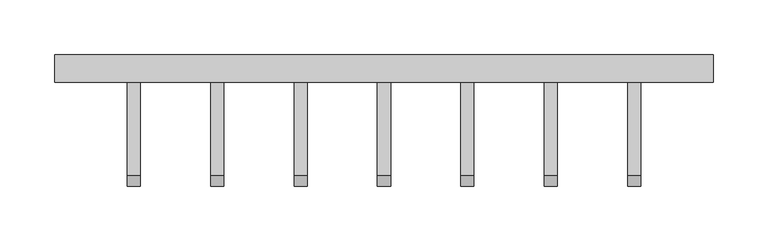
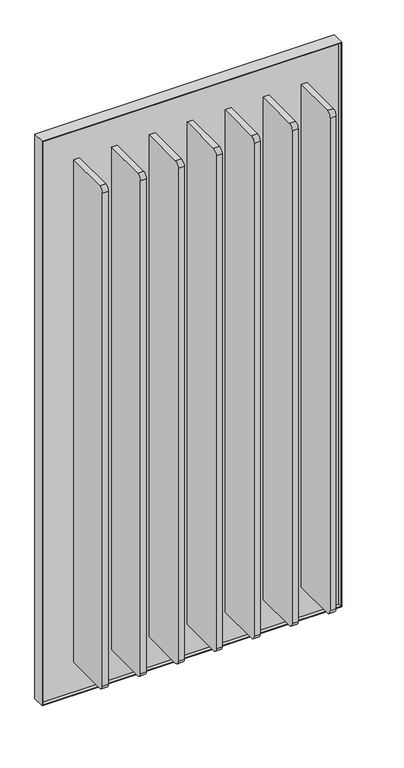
"""IFC4 building model written with IfcOpenShell, lengths in millimetres: proxy geometry, Frame_Cascade 8.3dm."""

from ifc_helpers import new_model, si_unit, point, frame, frame_2d, origin, place, context, project, spatial, polyline, circle_curve, trimmed, segment, composite_curve, outline, extrude, source, transform, mapped, element, save


def generic_models_322be5bc(model_context):
    return source(origin(), model_context, "Body", "SweptSolid", [
        extrude(outline(polyline([(2904.6286407, 2332.5516321), (2904.6286407, 2936.5516321), (4108.6286407, 2936.5516321), (4108.6286407, 2332.5516321), (2904.6286407, 2332.5516321)]), holes=[polyline([(2906.6286407, 2334.5516321), (4106.6286407, 2334.5516321), (4106.6286407, 2934.5516321), (2906.6286407, 2934.5516321), (2906.6286407, 2334.5516321)])]), frame((0.0, 107.5568681, 0.0), z_axis=(0.0, 1.0, 0.0), x_axis=(0.0, 0.0, 1.0)), (0.0, 0.0, 1.0), 25.4),
        extrude(outline(polyline([(2934.5516321, 114.2568681), (2334.5516321, 114.2568681), (2334.5516321, 126.2568681), (2934.5516321, 126.2568681), (2934.5516321, 114.2568681)])), frame((0.0, 0.0, 2906.6286407), z_axis=(0.0, 0.0, 1.0), x_axis=(1.0, 0.0, 0.0)), (0.0, 0.0, 1.0), 1200.0),
        extrude(outline(composite_curve([segment(trimmed(circle_curve(frame_2d((22.2568681, 2981.1286407)), 10.0), [point((22.2568681, 2971.1286407))], [point((12.2568681, 2981.1286407))], False, "CARTESIAN"), True, "CONTINUOUS"), segment(polyline([(12.2568681, 2981.1286407), (12.2568681, 4032.1286407)]), True, "CONTINUOUS"), segment(trimmed(circle_curve(frame_2d((22.2568681, 4032.1286407)), 10.0), [point((12.2568681, 4032.1286407))], [point((22.2568681, 4042.1286407))], False, "CARTESIAN"), True, "CONTINUOUS"), segment(polyline([(22.2568681, 4042.1286407), (114.2568681, 4042.1286407), (114.2568681, 2971.1286407), (22.2568681, 2971.1286407)]), True, "CONTINUOUS")], self_intersect=False)), frame((2552.0516321, 0.0, 0.0), z_axis=(1.0, 0.0, 0.0), x_axis=(0.0, 1.0, 0.0)), (0.0, 0.0, 1.0), 12.0),
        extrude(outline(composite_curve([segment(trimmed(circle_curve(frame_2d((22.2568681, 2981.1286407)), 10.0), [point((22.2568681, 2971.1286407))], [point((12.2568681, 2981.1286407))], False, "CARTESIAN"), True, "CONTINUOUS"), segment(polyline([(12.2568681, 2981.1286407), (12.2568681, 4032.1286407)]), True, "CONTINUOUS"), segment(trimmed(circle_curve(frame_2d((22.2568681, 4032.1286407)), 10.0), [point((12.2568681, 4032.1286407))], [point((22.2568681, 4042.1286407))], False, "CARTESIAN"), True, "CONTINUOUS"), segment(polyline([(22.2568681, 4042.1286407), (114.2568681, 4042.1286407), (114.2568681, 2971.1286407), (22.2568681, 2971.1286407)]), True, "CONTINUOUS")], self_intersect=False)), frame((2399.0516321, 0.0, 0.0), z_axis=(1.0, 0.0, 0.0), x_axis=(0.0, 1.0, 0.0)), (0.0, 0.0, 1.0), 12.0),
        extrude(outline(composite_curve([segment(trimmed(circle_curve(frame_2d((22.2568681, 2981.1286407)), 10.0), [point((22.2568681, 2971.1286407))], [point((12.2568681, 2981.1286407))], False, "CARTESIAN"), True, "CONTINUOUS"), segment(polyline([(12.2568681, 2981.1286407), (12.2568681, 4032.1286407)]), True, "CONTINUOUS"), segment(trimmed(circle_curve(frame_2d((22.2568681, 4032.1286407)), 10.0), [point((12.2568681, 4032.1286407))], [point((22.2568681, 4042.1286407))], False, "CARTESIAN"), True, "CONTINUOUS"), segment(polyline([(22.2568681, 4042.1286407), (114.2568681, 4042.1286407), (114.2568681, 2971.1286407), (22.2568681, 2971.1286407)]), True, "CONTINUOUS")], self_intersect=False)), frame((2781.5516321, 0.0, 0.0), z_axis=(1.0, 0.0, 0.0), x_axis=(0.0, 1.0, 0.0)), (0.0, 0.0, 1.0), 12.0),
        extrude(outline(composite_curve([segment(trimmed(circle_curve(frame_2d((22.2568681, 2981.1286407)), 10.0), [point((22.2568681, 2971.1286407))], [point((12.2568681, 2981.1286407))], False, "CARTESIAN"), True, "CONTINUOUS"), segment(polyline([(12.2568681, 2981.1286407), (12.2568681, 4032.1286407)]), True, "CONTINUOUS"), segment(trimmed(circle_curve(frame_2d((22.2568681, 4032.1286407)), 10.0), [point((12.2568681, 4032.1286407))], [point((22.2568681, 4042.1286407))], False, "CARTESIAN"), True, "CONTINUOUS"), segment(polyline([(22.2568681, 4042.1286407), (114.2568681, 4042.1286407), (114.2568681, 2971.1286407), (22.2568681, 2971.1286407)]), True, "CONTINUOUS")], self_intersect=False)), frame((2475.5516321, 0.0, 0.0), z_axis=(1.0, 0.0, 0.0), x_axis=(0.0, 1.0, 0.0)), (0.0, 0.0, 1.0), 12.0),
        extrude(outline(composite_curve([segment(trimmed(circle_curve(frame_2d((22.2568681, 2981.1286407)), 10.0), [point((22.2568681, 2971.1286407))], [point((12.2568681, 2981.1286407))], False, "CARTESIAN"), True, "CONTINUOUS"), segment(polyline([(12.2568681, 2981.1286407), (12.2568681, 4032.1286407)]), True, "CONTINUOUS"), segment(trimmed(circle_curve(frame_2d((22.2568681, 4032.1286407)), 10.0), [point((12.2568681, 4032.1286407))], [point((22.2568681, 4042.1286407))], False, "CARTESIAN"), True, "CONTINUOUS"), segment(polyline([(22.2568681, 4042.1286407), (114.2568681, 4042.1286407), (114.2568681, 2971.1286407), (22.2568681, 2971.1286407)]), True, "CONTINUOUS")], self_intersect=False)), frame((2858.0516321, 0.0, 0.0), z_axis=(1.0, 0.0, 0.0), x_axis=(0.0, 1.0, 0.0)), (0.0, 0.0, 1.0), 12.0),
        extrude(outline(composite_curve([segment(trimmed(circle_curve(frame_2d((22.2568681, 2981.1286407)), 10.0), [point((22.2568681, 2971.1286407))], [point((12.2568681, 2981.1286407))], False, "CARTESIAN"), True, "CONTINUOUS"), segment(polyline([(12.2568681, 2981.1286407), (12.2568681, 4032.1286407)]), True, "CONTINUOUS"), segment(trimmed(circle_curve(frame_2d((22.2568681, 4032.1286407)), 10.0), [point((12.2568681, 4032.1286407))], [point((22.2568681, 4042.1286407))], False, "CARTESIAN"), True, "CONTINUOUS"), segment(polyline([(22.2568681, 4042.1286407), (114.2568681, 4042.1286407), (114.2568681, 2971.1286407), (22.2568681, 2971.1286407)]), True, "CONTINUOUS")], self_intersect=False)), frame((2628.5516321, 0.0, 0.0), z_axis=(1.0, 0.0, 0.0), x_axis=(0.0, 1.0, 0.0)), (0.0, 0.0, 1.0), 12.0),
        extrude(outline(composite_curve([segment(trimmed(circle_curve(frame_2d((22.2568681, 2981.1286407)), 10.0), [point((22.2568681, 2971.1286407))], [point((12.2568681, 2981.1286407))], False, "CARTESIAN"), True, "CONTINUOUS"), segment(polyline([(12.2568681, 2981.1286407), (12.2568681, 4032.1286407)]), True, "CONTINUOUS"), segment(trimmed(circle_curve(frame_2d((22.2568681, 4032.1286407)), 10.0), [point((12.2568681, 4032.1286407))], [point((22.2568681, 4042.1286407))], False, "CARTESIAN"), True, "CONTINUOUS"), segment(polyline([(22.2568681, 4042.1286407), (114.2568681, 4042.1286407), (114.2568681, 2971.1286407), (22.2568681, 2971.1286407)]), True, "CONTINUOUS")], self_intersect=False)), frame((2705.0516321, 0.0, 0.0), z_axis=(1.0, 0.0, 0.0), x_axis=(0.0, 1.0, 0.0)), (0.0, 0.0, 1.0), 12.0),
    ])


if __name__ == "__main__":
    model = new_model("IFC4")
    model_context = context("Model", 3, world=origin())
    ifc_project = project(units=[si_unit("LENGTHUNIT", "METRE", prefix="MILLI")], contexts=[model_context])
    site = spatial("IfcSite", under=ifc_project)
    building = spatial("IfcBuilding", under=site)
    placement = place(None, origin())
    generic_models_shape = generic_models_322be5bc(model_context)
    element("IfcBuildingElementProxy", 1, Name="Frame_Cascade 8.3dm", ObjectType="Frame_Cascade 8.3dm", at=placement, inside=building, context=model_context, shape_type="MappedRepresentation", body=[
        mapped(generic_models_shape, transform((0.0, 0.0, 0.0), x_axis=(1.0, 0.0, 0.0), y_axis=(0.0, 1.0, 0.0), z_axis=(0.0, 0.0, 1.0))),
    ])
    save(model, "model.ifc")
